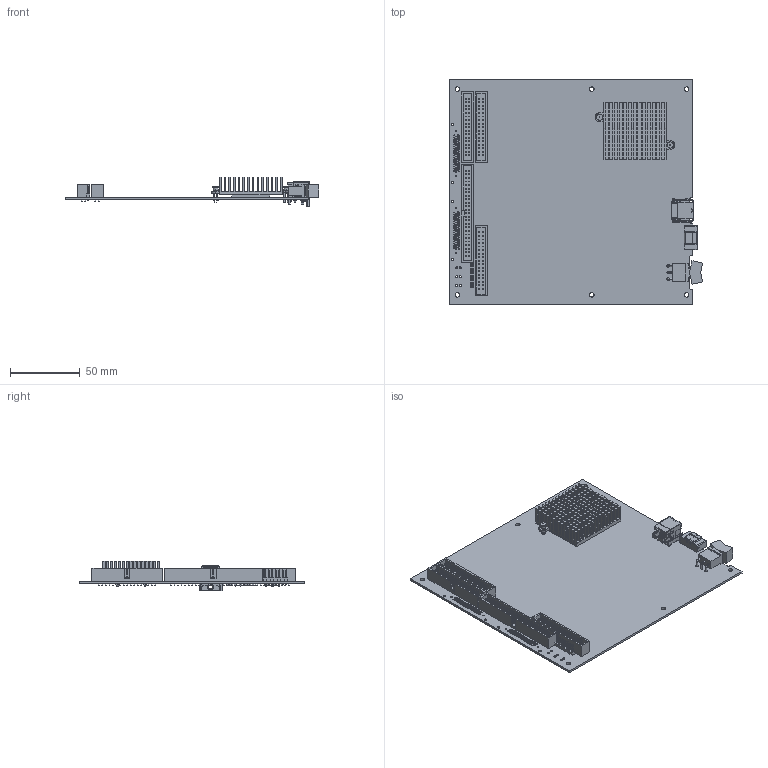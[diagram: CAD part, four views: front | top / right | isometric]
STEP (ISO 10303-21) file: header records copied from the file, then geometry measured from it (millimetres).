
FILE_DESCRIPTION((''),'2;1');
FILE_NAME('CU_USB-784XR_785XR_OEM_1','2017-11-09T',('dkendric'),(''),'CREO PARAMETRIC BY PTC INC, 2015380','CREO PARAMETRIC BY PTC INC, 2015380','');
FILE_SCHEMA(('CONFIG_CONTROL_DESIGN'));
Products named in the file (1): CU_USB-784XR_785XR_OEM_1
Bounding box: 182.3 x 162.56 x 21.46 mm (x, y, z)
Volume: 69256.7 mm3; surface area: 93957.8 mm2
Topology: 4 solids, 5 shells, 5331 faces, 14278 edges, 9424 vertices
Faces by surface type: plane 4089, cylinder 1172, bspline 40, cone 14, torus 10, sphere 4, extrusion 2
Entity records: 166772 total; most frequent: CARTESIAN_POINT 30640, ORIENTED_EDGE 28468, DIRECTION 27116, EDGE_CURVE 14234, VECTOR 11640, LINE 11638, VERTEX_POINT 9462, AXIS2_PLACEMENT_3D 7738
